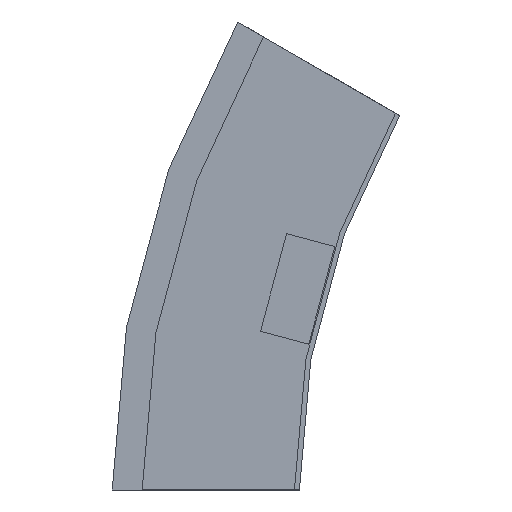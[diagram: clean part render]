
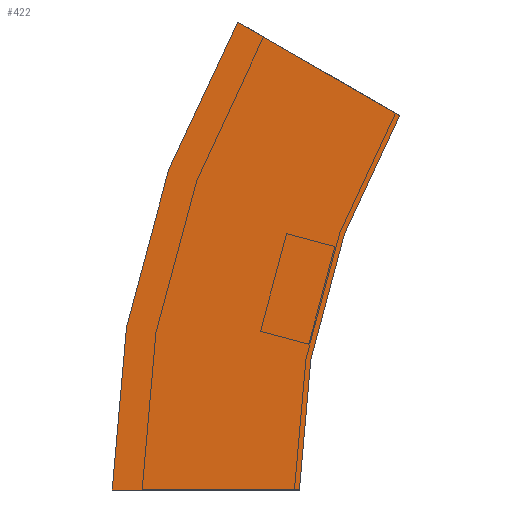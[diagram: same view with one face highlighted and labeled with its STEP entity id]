
A CAD part, left-side view. The second image highlights one B-rep face of the part: STEP entity #422.
In plain terms, the highlighted planar face has unit normal (-1, 0, 0) as drawn and (1, 0, 0) by its records, which use the part's own axes.
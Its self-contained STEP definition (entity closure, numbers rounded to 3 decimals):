
#28 = CARTESIAN_POINT ( 'NONE',  ( 0., 24.76, 187.5 ) ) ;
#41 = CARTESIAN_POINT ( 'NONE',  ( 0., -40.192, 150. ) ) ;
#43 = CARTESIAN_POINT ( 'NONE',  ( 0., 75., 0. ) ) ;
#45 = DIRECTION ( 'NONE',  ( 0., 1., 0. ) ) ;
#66 = CARTESIAN_POINT ( 'NONE',  ( 0., -300., 0. ) ) ;
#73 = CARTESIAN_POINT ( 'NONE',  ( 0., 0., 0. ) ) ;
#126 = DIRECTION ( 'NONE',  ( 1., 0., 0. ) ) ;
#135 = VERTEX_POINT ( 'NONE', #43 ) ;
#149 = VECTOR ( 'NONE', #433, 1000. ) ;
#155 = EDGE_CURVE ( 'NONE', #162, #300, #384, .T. ) ;
#162 = VERTEX_POINT ( 'NONE', #41 ) ;
#166 = VERTEX_POINT ( 'NONE', #175 ) ;
#168 = AXIS2_PLACEMENT_3D ( 'NONE', #66, #255, #45 ) ;
#170 = FACE_OUTER_BOUND ( 'NONE', #369, .T. ) ;
#175 = CARTESIAN_POINT ( 'NONE',  ( 0., 0., 0. ) ) ;
#248 = DIRECTION ( 'NONE',  ( 0., 1., 0. ) ) ;
#255 = DIRECTION ( 'NONE',  ( 1., 0., 0. ) ) ;
#267 = DIRECTION ( 'NONE',  ( 1., 0., 0. ) ) ;
#283 = CIRCLE ( 'NONE', #168, 300. ) ;
#300 = VERTEX_POINT ( 'NONE', #28 ) ;
#308 = EDGE_CURVE ( 'NONE', #166, #162, #283, .T. ) ;
#332 = ORIENTED_EDGE ( 'NONE', *, *, #429, .T. ) ;
#344 = PLANE ( 'NONE',  #431 ) ;
#348 = DIRECTION ( 'NONE',  ( 0., 0., -1. ) ) ;
#349 = VECTOR ( 'NONE', #248, 1000. ) ;
#369 = EDGE_LOOP ( 'NONE', ( #332, #466, #377, #426 ) ) ;
#377 = ORIENTED_EDGE ( 'NONE', *, *, #308, .F. ) ;
#384 = LINE ( 'NONE', #443, #149 ) ;
#389 = AXIS2_PLACEMENT_3D ( 'NONE', #493, #267, #393 ) ;
#393 = DIRECTION ( 'NONE',  ( 0., 1., 0. ) ) ;
#394 = EDGE_CURVE ( 'NONE', #166, #135, #526, .T. ) ;
#422 = ADVANCED_FACE ( 'NONE', ( #170 ), #344, .T. ) ;
#426 = ORIENTED_EDGE ( 'NONE', *, *, #394, .T. ) ;
#429 = EDGE_CURVE ( 'NONE', #135, #300, #498, .T. ) ;
#431 = AXIS2_PLACEMENT_3D ( 'NONE', #525, #126, #348 ) ;
#433 = DIRECTION ( 'NONE',  ( 0., 0.866, 0.5 ) ) ;
#443 = CARTESIAN_POINT ( 'NONE',  ( 0., -40.192, 150. ) ) ;
#466 = ORIENTED_EDGE ( 'NONE', *, *, #155, .F. ) ;
#493 = CARTESIAN_POINT ( 'NONE',  ( 0., -300., 0. ) ) ;
#498 = CIRCLE ( 'NONE', #389, 375. ) ;
#525 = CARTESIAN_POINT ( 'NONE',  ( 0., 0., 0. ) ) ;
#526 = LINE ( 'NONE', #73, #349 ) ;
